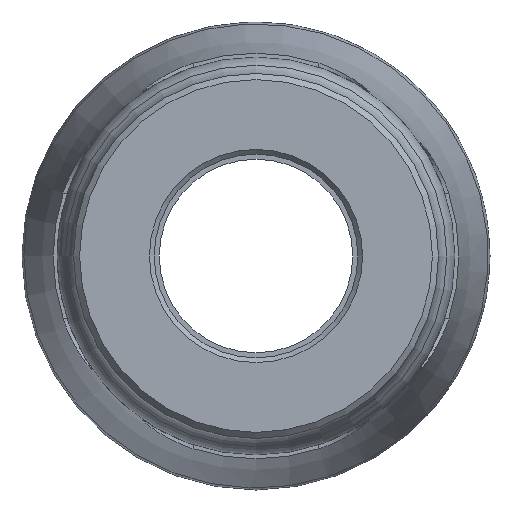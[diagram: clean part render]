
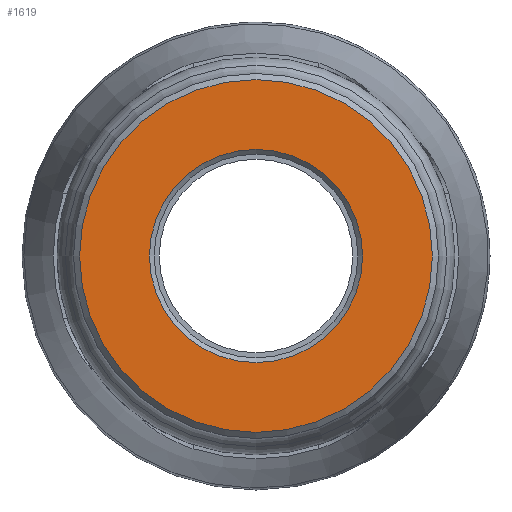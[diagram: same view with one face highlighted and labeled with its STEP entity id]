
A CAD part, left-side view. The second image highlights one B-rep face of the part: STEP entity #1619.
In plain terms, the highlighted planar face has unit normal (-1, 0, 0).
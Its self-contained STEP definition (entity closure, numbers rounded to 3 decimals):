
#29=FACE_BOUND('',#401,.T.);
#212=PLANE('',#1776);
#290=FACE_OUTER_BOUND('',#400,.T.);
#400=EDGE_LOOP('',(#1219));
#401=EDGE_LOOP('',(#1220));
#542=CIRCLE('',#1775,23.453);
#543=CIRCLE('',#1777,38.825);
#728=VERTEX_POINT('',#2910);
#729=VERTEX_POINT('',#2913);
#910=EDGE_CURVE('',#728,#728,#542,.T.);
#911=EDGE_CURVE('',#729,#729,#543,.T.);
#1219=ORIENTED_EDGE('',*,*,#911,.F.);
#1220=ORIENTED_EDGE('',*,*,#910,.F.);
#1619=ADVANCED_FACE('',(#290,#29),#212,.T.);
#1775=AXIS2_PLACEMENT_3D('',#2911,#2067,#2068);
#1776=AXIS2_PLACEMENT_3D('',#2912,#2069,#2070);
#1777=AXIS2_PLACEMENT_3D('',#2914,#2071,#2072);
#2067=DIRECTION('center_axis',(-1.,0.,0.));
#2068=DIRECTION('ref_axis',(0.,-1.,0.));
#2069=DIRECTION('center_axis',(-1.,0.,0.));
#2070=DIRECTION('ref_axis',(0.,0.,1.));
#2071=DIRECTION('center_axis',(1.,0.,0.));
#2072=DIRECTION('ref_axis',(0.,-1.,0.));
#2910=CARTESIAN_POINT('',(0.,23.453,0.));
#2911=CARTESIAN_POINT('Origin',(0.,0.,0.));
#2912=CARTESIAN_POINT('Origin',(0.,40.17,0.));
#2913=CARTESIAN_POINT('',(0.,38.825,0.));
#2914=CARTESIAN_POINT('Origin',(0.,0.,0.));
